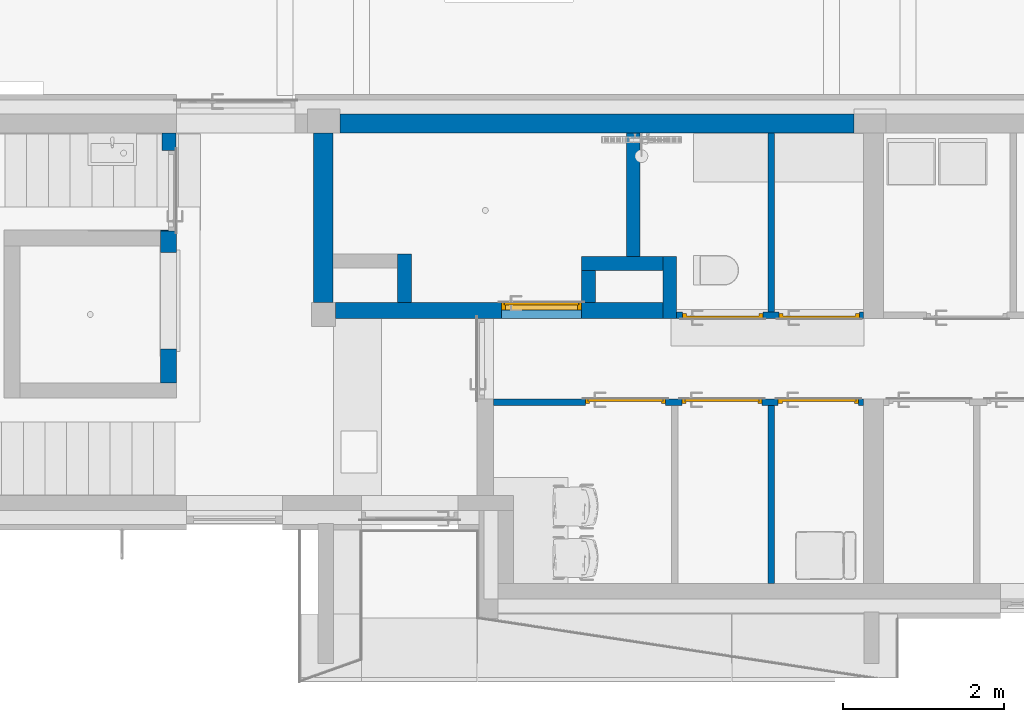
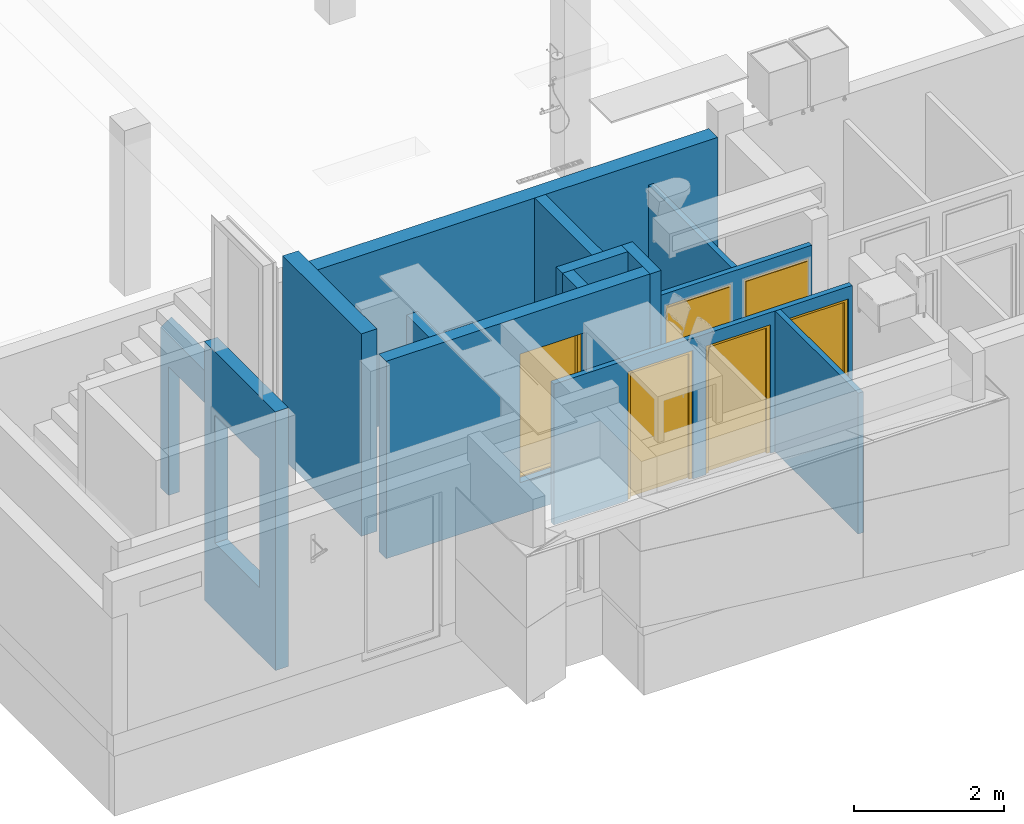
# One storey, part 2 of 55: 14 walls, 6 doors, 11 openings.
"""IFC2X3 building model written with IfcOpenShell, lengths in millimetres."""

from ifc_helpers import new_model, entity, si_unit, converted_unit, direction, frame, frame_2d, origin, place, context, subcontext, project, spatial, polyline, rectangle, extrude, clip, bounded_halfspace, faceted_brep, source, transform, mapped, material, material_list, layer, layer_set, layer_usage, type_object, type_shapes, element, fill, save


model = new_model("IFC2X3")

# Units and contexts
model_context = context("Model", 3, precision=0.01, world=origin(), true_north=direction((6.123233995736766e-17, 1.0)))
plan_context = context("Plan", 3, precision=0.01, world=origin(), true_north=direction((6.123233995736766e-17, 1.0)))
body_context = subcontext(model_context, "Body", "Model", "MODEL_VIEW")
ifc_project = project(units=[si_unit("LENGTHUNIT", "METRE", prefix="MILLI"), converted_unit("PLANEANGLEUNIT", "DEGREE", entity("IfcPlaneAngleMeasure", 0.017453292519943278), si_unit("PLANEANGLEUNIT", "RADIAN"), dimensions=[0, 0, 0, 0, 0, 0, 0]), si_unit("AREAUNIT", "SQUARE_METRE")], contexts=[model_context, plan_context])

# Site, building, storey
site_placement = place(None, origin())
site = spatial("IfcSite", under=ifc_project, at=site_placement, Name="Default", CompositionType="ELEMENT")
building_placement = place(site_placement, origin())
building = spatial("IfcBuilding", under=site, at=building_placement, CompositionType="ELEMENT")
storey_placement = place(building_placement, origin())
storey = spatial("IfcBuildingStorey", under=building, at=storey_placement, Name="1K", CompositionType="ELEMENT", Elevation=0.0)

# Walls
ifc_material_1 = material(Name="_K. Müüritis. Väikeplokk. Betoon-õõnesplokk")
ifc_layer_1 = layer(ifc_material_1, 240.0)
ifc_layer_set_1 = layer_set([ifc_layer_1], Name="Basic Wall:Columbia 240mm")
ifc_layer_usage_1 = layer_usage(ifc_layer_set_1, "AXIS2", "NEGATIVE", 120.0)
wall_type_1 = type_object("IfcWallType", Name="Basic Wall:Columbia 240mm", PredefinedType="STANDARD", material=ifc_layer_set_1)
wall_1_placement = place(storey_placement, frame((5380.001886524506, 6525.000000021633, -180.0)))
element("IfcWallStandardCase", 1, at=wall_1_placement, inside=storey, type_object=wall_type_1, material=ifc_layer_usage_1, Name="Basic Wall:Columbia 240mm", ObjectType="Basic Wall:Columbia 240mm", context=body_context, shape_type="SweptSolid", body=[
    extrude(rectangle(XDim=6395.001646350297, YDim=239.99999999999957, at=frame_2d((3197.5008231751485, 0.0), x_axis=(-1.0, 0.0))), origin(), (0.0, 0.0, 1.0), 2884.999801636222),
])
ifc_layer_usage_2 = layer_usage(ifc_layer_set_1, "AXIS2", "NEGATIVE", 120.0)
wall_2_placement = place(storey_placement, frame((5174.9950608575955, 4299.990000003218, -180.0), z_axis=(0.0, 0.0, 1.0), x_axis=(0.0, 1.0, 0.0)))
element("IfcWallStandardCase", 2, at=wall_2_placement, inside=storey, type_object=wall_type_1, material=ifc_layer_usage_2, Name="Basic Wall:Columbia 240mm", ObjectType="Basic Wall:Columbia 240mm", context=body_context, shape_type="SweptSolid", body=[
    extrude(rectangle(XDim=2105.0100000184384, YDim=239.9999999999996, at=frame_2d((1052.505000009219, 7.815970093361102e-14), x_axis=(-1.0, 0.0))), origin(), (0.0, 0.0, 1.0), 3305.0),
])

# Wall, openings
ifc_material_2 = material(Name="_K. Väisviimistlus. Krohv. Valge")
ifc_layer_2 = layer(ifc_material_2, 5.0)
ifc_layer_3 = layer(ifc_material_1, 190.00000000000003)
ifc_layer_4 = layer(ifc_material_2, 5.0)
ifc_layer_set_2 = layer_set([ifc_layer_2, ifc_layer_3, ifc_layer_4], Name="Basic Wall:SS-01. 190")
ifc_layer_usage_3 = layer_usage(ifc_layer_set_2, "AXIS2", "NEGATIVE", 100.00000000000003)
wall_type_2 = type_object("IfcWallType", Name="Basic Wall:SS-01. 190", PredefinedType="STANDARD", material=ifc_layer_set_2)
wall_3_placement = place(storey_placement, frame((3249.9935349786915, 5199.998433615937, -1100.0), z_axis=(0.0, 0.0, 1.0), x_axis=(0.0, -1.0, 0.0)))
wall_3 = element("IfcWallStandardCase", 3, at=wall_3_placement, inside=storey, type_object=wall_type_2, material=ifc_layer_usage_3, Name="Basic Wall:SS-01. 190", ObjectType="Basic Wall:SS-01. 190", context=body_context, shape_type="SweptSolid", body=[
    extrude(rectangle(XDim=1900.0045776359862, YDim=200.0, at=frame_2d((950.0022888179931, 0.0), x_axis=(-1.0, 0.0))), origin(), (0.0, 0.0, 1.0), 4225.0),
])
opening_1_placement = place(wall_3_placement, frame((5199.998433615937, -3249.9935349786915, 1100.0)))
element("IfcOpeningElement", 4, at=opening_1_placement, cuts=wall_3, Name="Basic Wall:SS-01. 190", ObjectType="Opening", context=body_context, shape_type="Brep", body=[
    faceted_brep([(-5189.998433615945, 2247.9935349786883, 2100.0), (-6189.998433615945, 2247.993534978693, 2100.0), (-6189.998433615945, 2247.993534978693, 0.0), (-5189.998433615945, 2247.9935349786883, 0.0), (-5189.998433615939, 4339.9935349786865, 0.0), (-5189.998433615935, 4339.9935349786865, 2100.0), (-6189.998433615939, 4339.993534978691, 0.0), (-6189.998433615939, 4339.993534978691, 2100.0)], [[[0, 1, 2, 3]], [[3, 4, 5, 0]], [[2, 6, 4, 3]], [[1, 7, 6, 2]], [[5, 7, 1, 0]], [[7, 5, 4, 6]]]),
])
opening_2_placement = place(wall_3_placement, frame((5199.998433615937, -3249.9935349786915, 1100.0)))
element("IfcOpeningElement", 5, at=opening_2_placement, cuts=wall_3, Name="Basic Wall:SS-01. 190", ObjectType="Opening", context=body_context, shape_type="SweptSolid", body=[
    extrude(rectangle(XDim=2100.0000000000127, YDim=1200.0, at=frame_2d((-1.1368683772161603e-13, 0.0), x_axis=(1.0, 0.0))), frame((-4320.0, 1825.9935349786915, 1050.0), z_axis=(0.0, 1.0, 0.0), x_axis=(0.0, 0.0, 1.0)), (0.0, 0.0, 1.0), 3048.0),
])
opening_3_placement = place(wall_3_placement, frame((5199.998433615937, -3249.9935349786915, 4225.0)))
element("IfcOpeningElement", 6, at=opening_3_placement, cuts=wall_3, Name="Basic Wall:SS-01. 190", ObjectType="Opening", context=body_context, shape_type="SweptSolid", body=[
    extrude(rectangle(XDim=2100.0000000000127, YDim=1200.0, at=frame_2d((-5.684341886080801e-13, 0.0), x_axis=(1.0, 0.0))), frame((-4320.0, 1825.9935349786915, 1050.0), z_axis=(0.0, 1.0, 0.0), x_axis=(0.0, 0.0, 1.0)), (0.0, 0.0, 1.0), 3048.0),
])

# Wall, openings, door
ifc_layer_usage_4 = layer_usage(ifc_layer_set_2, "AXIS2", "POSITIVE", -100.00000000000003)
wall_4_placement = place(storey_placement, frame((5325.0, 4200.0, -520.0)))
wall_4 = element("IfcWallStandardCase", 7, at=wall_4_placement, inside=storey, type_object=wall_type_2, material=ifc_layer_usage_4, Name="Basic Wall:SS-01. 190", ObjectType="Basic Wall:SS-01. 190", context=body_context, shape_type="SweptSolid", body=[
    extrude(rectangle(XDim=4074.9999999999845, YDim=199.9999999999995, at=frame_2d((2037.499999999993, 2.4868995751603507e-13), x_axis=(-1.0, 0.0))), origin(), (0.0, 0.0, 1.0), 3225.0),
])
opening_4_placement = place(wall_4_placement, frame((-5325.0, -4200.0, 520.0)))
element("IfcOpeningElement", 8, at=opening_4_placement, cuts=wall_4, Name="Basic Wall:SS-01. 190", ObjectType="Opening", context=body_context, shape_type="SweptSolid", body=[
    extrude(rectangle(XDim=2100.0, YDim=2091.9999999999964, at=frame_2d((1.1368683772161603e-13, 1.5916157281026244e-12), x_axis=(1.0, 0.0))), frame((7136.0, 3100.0, 1050.0), z_axis=(0.0, 1.0, 0.0), x_axis=(0.0, 0.0, -1.0)), (0.0, 0.0, 1.0), 1000.0000000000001),
])
opening_5_placement = place(wall_4_placement, frame((-5325.0, -4200.0, 520.0)))
opening_5 = element("IfcOpeningElement", 9, at=opening_5_placement, cuts=wall_4, Name="Basic Wall:SS-01. 190", ObjectType="Opening", context=body_context, shape_type="Brep", body=[
    faceted_brep([(8390.0, 3208.0, 2100.0), (7390.0, 3208.0, 2100.0), (7390.0, 3208.0, 0.0), (8390.0, 3208.0, 0.0), (8390.0, 5300.0, 0.0), (8390.0, 5300.0, 2100.0), (7390.0, 5300.0, 0.0), (7390.0, 5300.0, 2100.0)], [[[0, 1, 2, 3]], [[3, 4, 5, 0]], [[2, 6, 4, 3]], [[1, 7, 6, 2]], [[5, 7, 1, 0]], [[7, 5, 4, 6]]]),
])
ifc_material_3 = material(Name="<Unnamed>")
ifc_material_4 = material(Name="Default")
ifc_material_list = material_list([ifc_material_3, ifc_material_4])
door_style_1 = type_object("IfcDoorStyle", Name="HR_Generic_Hinged_Single:Default. Manteluks lävepakuga. 1000 x 2100 mm. Left", ConstructionType="NOTDEFINED", OperationType="NOTDEFINED", ParameterTakesPrecedence=False, Sizeable=False, material=ifc_material_list)
shared_shape_1 = source(origin(), body_context, "Body", "Brep", [
    faceted_brep([(965.0, -1000.0, 20.0), (35.0, -1000.0, 20.0), (35.0, -1030.0, 20.0), (50.0, -1030.0, 20.0), (50.0, -1092.0, 20.0), (950.0, -1092.0, 20.0), (950.0, -1030.0, 20.0), (965.0, -1030.0, 20.0), (35.0, -1000.0, 0.0), (965.0, -1000.0, 0.0), (965.0, -1030.0, 0.0), (950.0, -1030.0, 0.0), (950.0, -1092.0, 0.0), (50.0, -1092.0, 0.0), (50.0, -1030.0, 0.0), (35.0, -1030.0, 0.0)], [[[0, 1, 2, 3, 4, 5, 6, 7]], [[8, 9, 10, 11, 12, 13, 14, 15]], [[1, 0, 9, 8]], [[5, 4, 13, 12]], [[2, 1, 8, 15]], [[0, 7, 10, 9]], [[3, 14, 13, 4]], [[14, 3, 2, 15]], [[6, 11, 10, 7]], [[11, 6, 5, 12]]]),
    faceted_brep([(37.0, -1030.0, 2060.0), (37.0, -1030.0, 25.0), (963.0, -1030.0, 25.0), (963.0, -1030.0, 2060.0), (27.0, -990.0, 25.0), (27.0, -990.0, 2070.0), (973.0, -990.0, 2070.0), (973.0, -990.0, 25.0), (37.0, -1000.0, 2060.0), (37.0, -1000.0, 25.0), (27.0, -1000.0, 25.0), (973.0, -1000.0, 25.0), (963.0, -1000.0, 25.0), (963.0, -1000.0, 2060.0), (27.0, -1000.0, 2070.0), (973.0, -1000.0, 2070.0)], [[[0, 1, 2, 3]], [[4, 5, 6, 7]], [[1, 0, 8, 9]], [[2, 1, 9, 10, 4, 7, 11, 12]], [[3, 2, 12, 13]], [[0, 3, 13, 8]], [[14, 10, 9, 8, 13, 12, 11, 15]], [[6, 5, 14, 15]], [[7, 6, 15, 11]], [[5, 4, 10, 14]]]),
    faceted_brep([(1000.0, -1092.0, 0.0), (950.0, -1092.0, 0.0), (950.0, -1030.0, 0.0), (965.0, -1030.0, 0.0), (965.0, -1000.0, 0.0), (1000.0, -1000.0, 0.0), (1000.0, -1092.0, 2100.0), (0.0, -1092.0, 2100.0), (0.0, -1092.0, 0.0), (50.0, -1092.0, 0.0), (50.0, -1092.0, 2050.0), (950.0, -1092.0, 2050.0), (950.0, -1030.0, 2050.0), (35.0, -1030.0, 2065.0), (965.0, -1030.0, 2065.0), (50.0, -1030.0, 2050.0), (50.0, -1030.0, 0.0), (35.0, -1030.0, 0.0), (965.0, -1000.0, 2065.0), (0.0, -1000.0, 0.0), (0.0, -1000.0, 2100.0), (1000.0, -1000.0, 2100.0), (35.0, -1000.0, 2065.0), (35.0, -1000.0, 0.0)], [[[0, 1, 2, 3, 4, 5]], [[1, 0, 6, 7, 8, 9, 10, 11]], [[1, 11, 12, 2]], [[13, 14, 3, 2, 12, 15, 16, 17]], [[3, 14, 18, 4]], [[19, 20, 21, 5, 4, 18, 22, 23]], [[0, 5, 21, 6]], [[8, 19, 23, 17, 16, 9]], [[19, 8, 7, 20]], [[13, 17, 23, 22]], [[10, 9, 16, 15]], [[7, 6, 21, 20]], [[11, 10, 15, 12]], [[14, 13, 22, 18]]]),
])
type_shapes(door_style_1, [shared_shape_1])
door_1_placement = place(opening_5_placement, frame((7390.0, 5300.0, 0.0)))
door_1 = element("IfcDoor", 10, at=door_1_placement, inside=storey, type_object=door_style_1, material=ifc_material_list, Name="HR_Generic_Hinged_Single:Default. Manteluks lävepakuga. 1000 x 2100 mm. Left", ObjectType="HR_Generic_Hinged_Single:Default. Manteluks lävepakuga. 1000 x 2100 mm. Left", OverallHeight=2130.000000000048, OverallWidth=1060.0000000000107, context=body_context, shape_type="MappedRepresentation", body=[
    mapped(shared_shape_1, transform((0.0, 0.0, 0.0), scale=1.0)),
])
fill(opening_5, door_1)

# Walls
ifc_layer_5 = layer(ifc_material_2, 10.0)
ifc_material_5 = material(Name="_K. Müüritis. Väikeplokk. Kergkruusplokk")
ifc_layer_6 = layer(ifc_material_5, 150.0)
ifc_layer_7 = layer(ifc_material_2, 10.0)
ifc_layer_set_3 = layer_set([ifc_layer_5, ifc_layer_6, ifc_layer_7], Name="Basic Wall:SS-03. Šahti sein")
ifc_layer_usage_5 = layer_usage(ifc_layer_set_3, "AXIS2", "NEGATIVE", 85.00000000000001)
wall_type_3 = type_object("IfcWallType", Name="Basic Wall:SS-03. Šahti sein", PredefinedType="STANDARD", material=ifc_layer_set_3)
wall_5_placement = place(storey_placement, frame((8390.0, 4785.0, -20.0)))
element("IfcWallStandardCase", 11, at=wall_5_placement, inside=storey, type_object=wall_type_3, material=ifc_layer_usage_5, Name="Basic Wall:SS-03. Šahti sein", ObjectType="Basic Wall:SS-03. Šahti sein", context=body_context, shape_type="SweptSolid", body=[
    extrude(rectangle(XDim=1009.9999999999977, YDim=170.00000000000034, at=frame_2d((504.99999999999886, 0.0), x_axis=(-1.0, 0.0))), origin(), (0.0, 0.0, 1.0), 2724.9998016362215),
])
ifc_layer_usage_6 = layer_usage(ifc_layer_set_3, "AXIS2", "NEGATIVE", 85.00000000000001)
wall_6_placement = place(storey_placement, frame((9485.0, 4870.0, -20.0), z_axis=(0.0, 0.0, 1.0), x_axis=(0.0, -1.0, 0.0)))
element("IfcWallStandardCase", 12, at=wall_6_placement, inside=storey, type_object=wall_type_3, material=ifc_layer_usage_6, Name="Basic Wall:SS-03. Šahti sein", ObjectType="Basic Wall:SS-03. Šahti sein", context=body_context, shape_type="SweptSolid", body=[
    extrude(rectangle(XDim=770.0000000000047, YDim=170.00000000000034, at=frame_2d((385.00000000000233, -2.1316282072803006e-14), x_axis=(-1.0, 0.0))), origin(), (0.0, 0.0, 1.0), 2724.9998016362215),
])
ifc_layer_usage_7 = layer_usage(ifc_layer_set_3, "AXIS2", "POSITIVE", -85.00000000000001)
wall_7_placement = place(storey_placement, frame((8475.0, 4700.0, -20.0), z_axis=(0.0, 0.0, 1.0), x_axis=(0.0, -1.0, 0.0)))
element("IfcWallStandardCase", 13, at=wall_7_placement, inside=storey, type_object=wall_type_3, material=ifc_layer_usage_7, Name="Basic Wall:SS-03. Šahti sein", ObjectType="Basic Wall:SS-03. Šahti sein", context=body_context, shape_type="SweptSolid", body=[
    extrude(rectangle(XDim=400.00000000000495, YDim=170.00000000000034, at=frame_2d((200.00000000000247, -1.3500311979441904e-13), x_axis=(-1.0, 0.0))), origin(), (0.0, 0.0, 1.0), 2725.0),
])
ifc_layer_usage_8 = layer_usage(ifc_layer_set_3, "AXIS2", "NEGATIVE", 85.00000000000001)
wall_8_placement = place(storey_placement, frame((6184.997197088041, 4900.0, -20.0), z_axis=(0.0, 0.0, 1.0), x_axis=(0.0, -1.0, 0.0)))
element("IfcWallStandardCase", 14, at=wall_8_placement, inside=storey, type_object=wall_type_3, material=ifc_layer_usage_8, Name="Basic Wall:SS-03. Šahti sein", ObjectType="Basic Wall:SS-03. Šahti sein", context=body_context, shape_type="SweptSolid", body=[
    extrude(rectangle(XDim=599.9999999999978, YDim=170.00000000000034, at=frame_2d((299.9999999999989, 4.050093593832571e-13), x_axis=(-1.0, 0.0))), origin(), (0.0, 0.0, 1.0), 2724.9998016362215),
])
ifc_layer_usage_9 = layer_usage(ifc_layer_set_3, "AXIS2", "NEGATIVE", 85.00000000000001)
wall_9_placement = place(storey_placement, frame((9029.995060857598, 6405.000000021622, -20.0), z_axis=(0.0, 0.0, 1.0), x_axis=(0.0, -1.0, 0.0)))
element("IfcWallStandardCase", 15, at=wall_9_placement, inside=storey, type_object=wall_type_3, material=ifc_layer_usage_9, Name="Basic Wall:SS-03. Šahti sein", ObjectType="Basic Wall:SS-03. Šahti sein", context=body_context, shape_type="SweptSolid", body=[
    extrude(rectangle(XDim=1535.0000000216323, YDim=170.00000000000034, at=frame_2d((767.5000000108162, -4.263256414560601e-14), x_axis=(-1.0, 0.0))), origin(), (0.0, 0.0, 1.0), 2725.0),
])

# Wall, opening
ifc_layer_usage_10 = layer_usage(ifc_layer_set_3, "AXIS2", "NEGATIVE", 85.00000000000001)
wall_10_placement = place(storey_placement, frame((3254.9935349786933, 6405.000000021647, 0.0), z_axis=(0.0, 0.0, 1.0), x_axis=(0.0, -1.0, 0.0)))
wall_10 = element("IfcWallStandardCase", 16, at=wall_10_placement, inside=storey, type_object=wall_type_3, material=ifc_layer_usage_10, Name="Basic Wall:SS-03. Šahti sein", ObjectType="Basic Wall:SS-03. Šahti sein", context=body_context, shape_type="Clipping", body=[
    clip(extrude(rectangle(XDim=1205.0015664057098, YDim=170.00000000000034, at=frame_2d((602.5007832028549, 0.0), x_axis=(-1.0, 0.0))), origin(), (0.0, 0.0, 1.0), 2731.848554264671), bounded_halfspace(frame((0.0, -85.0, 2622.537854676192), z_axis=(0.0, -0.5408450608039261, 0.8411222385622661), x_axis=(0.0, -0.8411222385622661, -0.5408450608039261)), False, frame((0.0, -85.0, 2622.537854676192)), polyline([(0.0, 0.0), (1205.0015664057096, 0.0), (1205.0015664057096, 170.0), (0.0, 170.0), (0.0, 0.0)]))),
])
opening_6_placement = place(wall_10_placement, frame((6405.000000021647, -3254.9935349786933, 0.0), z_axis=(0.0, 0.0, 1.0), x_axis=(0.0, 1.0, 0.0)))
element("IfcOpeningElement", 17, at=opening_6_placement, cuts=wall_10, Name="Basic Wall:SS-03. Šahti sein", ObjectType="Opening", context=body_context, shape_type="Brep", body=[
    faceted_brep([(2247.9935349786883, 5189.998433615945, 2100.0), (2247.993534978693, 6189.998433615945, 2100.0), (2247.993534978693, 6189.998433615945, 0.0), (2247.9935349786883, 5189.998433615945, 0.0), (4339.9935349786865, 5189.998433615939, 0.0), (4339.9935349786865, 5189.998433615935, 2100.0), (4339.993534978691, 6189.998433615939, 0.0), (4339.993534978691, 6189.998433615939, 2100.0)], [[[0, 1, 2, 3]], [[3, 4, 5, 0]], [[2, 6, 4, 3]], [[1, 7, 6, 2]], [[5, 7, 1, 0]], [[7, 5, 4, 6]]]),
])

# Wall, openings, doors
ifc_material_6 = material(Name="_K. Ehitusplaat. Vineer")
ifc_layer_8 = layer(ifc_material_6, 12.0)
ifc_material_7 = material(Name="_K. Puit. Peitsitud ja lakitud")
ifc_layer_9 = layer(ifc_material_7, 70.0)
ifc_layer_set_4 = layer_set([ifc_layer_8, ifc_layer_9], Name="Basic Wall:SS-07. Panipaik")
ifc_layer_usage_11 = layer_usage(ifc_layer_set_4, "AXIS2", "NEGATIVE", 41.0)
wall_type_4 = type_object("IfcWallType", Name="Basic Wall:SS-07. Panipaik", PredefinedType="STANDARD", material=ifc_layer_set_4)
wall_11_placement = place(storey_placement, frame((11894.995060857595, 3058.999959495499, 0.0), z_axis=(0.0, 0.0, 1.0), x_axis=(-1.0, 0.0, 0.0)))
wall_11 = element("IfcWallStandardCase", 18, at=wall_11_placement, inside=storey, type_object=wall_type_4, material=ifc_layer_usage_11, Name="Basic Wall:SS-07. Panipaik", ObjectType="Basic Wall:SS-07. Panipaik", context=body_context, shape_type="SweptSolid", body=[
    extrude(rectangle(XDim=4604.9950608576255, YDim=81.99999999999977, at=frame_2d((2302.4975304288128, 7.460698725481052e-14), x_axis=(-1.0, 0.0))), origin(), (0.0, 0.0, 1.0), 2300.0000000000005),
])
opening_7_placement = place(wall_11_placement, frame((11894.995060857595, 3058.999959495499, 0.0), z_axis=(0.0, 0.0, 1.0), x_axis=(-1.0, 0.0, 0.0)))
opening_7 = element("IfcOpeningElement", 19, at=opening_7_placement, cuts=wall_11, Name="Basic Wall:SS-07. Panipaik", ObjectType="Opening", context=body_context, shape_type="Brep", body=[
    faceted_brep([(11834.995060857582, 2039.9999594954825, 2100.0), (10834.995060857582, 2039.999959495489, 2100.0), (10834.995060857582, 2039.999959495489, 0.0), (11834.995060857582, 2039.9999594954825, 0.0), (11834.995060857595, 4099.999959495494, 0.0), (11834.995060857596, 4099.999959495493, 2100.0), (10834.995060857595, 4099.999959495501, 0.0), (10834.995060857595, 4099.999959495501, 2100.0)], [[[0, 1, 2, 3]], [[3, 4, 5, 0]], [[2, 6, 4, 3]], [[1, 7, 6, 2]], [[5, 7, 1, 0]], [[7, 5, 4, 6]]]),
])
opening_8_placement = place(wall_11_placement, frame((11894.995060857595, 3058.999959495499, 0.0), z_axis=(0.0, 0.0, 1.0), x_axis=(-1.0, 0.0, 0.0)))
opening_8 = element("IfcOpeningElement", 20, at=opening_8_placement, cuts=wall_11, Name="Basic Wall:SS-07. Panipaik", ObjectType="Opening", context=body_context, shape_type="Brep", body=[
    faceted_brep([(10634.995060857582, 2039.9999594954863, 2100.0), (9634.995060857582, 2039.9999594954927, 2100.0), (9634.995060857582, 2039.9999594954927, 0.0), (10634.995060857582, 2039.9999594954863, 0.0), (10634.995060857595, 4099.999959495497, 0.0), (10634.995060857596, 4099.999959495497, 2100.0), (9634.995060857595, 4099.999959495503, 0.0), (9634.995060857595, 4099.999959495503, 2100.0)], [[[0, 1, 2, 3]], [[3, 4, 5, 0]], [[2, 6, 4, 3]], [[1, 7, 6, 2]], [[5, 7, 1, 0]], [[7, 5, 4, 6]]]),
])
opening_9_placement = place(wall_11_placement, frame((11894.995060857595, 3058.999959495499, 0.0), z_axis=(0.0, 0.0, 1.0), x_axis=(-1.0, 0.0, 0.0)))
opening_9 = element("IfcOpeningElement", 21, at=opening_9_placement, cuts=wall_11, Name="Basic Wall:SS-07. Panipaik", ObjectType="Opening", context=body_context, shape_type="Brep", body=[
    faceted_brep([(9434.99506085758, 2039.9999594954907, 2100.0), (8434.99506085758, 2039.999959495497, 2100.0), (8434.99506085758, 2039.999959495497, 0.0), (9434.99506085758, 2039.9999594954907, 0.0), (9434.995060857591, 4099.999959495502, 0.0), (9434.995060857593, 4099.999959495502, 2100.0), (8434.995060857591, 4099.999959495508, 0.0), (8434.995060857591, 4099.999959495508, 2100.0)], [[[0, 1, 2, 3]], [[3, 4, 5, 0]], [[2, 6, 4, 3]], [[1, 7, 6, 2]], [[5, 7, 1, 0]], [[7, 5, 4, 6]]]),
])
ifc_material_8 = material(Name="_K. Metall. Plekk. Tsingitud")
door_style_2 = type_object("IfcDoorStyle", Name="HR_Generic_Hinged_Single:Panipaik. Vasak", ConstructionType="NOTDEFINED", OperationType="NOTDEFINED", ParameterTakesPrecedence=False, Sizeable=False, material=ifc_material_8)
shared_shape_2 = source(origin(), body_context, "Body", "Brep", [
    faceted_brep([(37.0, -1030.0, 2060.0), (37.0, -1030.0, 10.0), (963.0, -1030.0, 10.0), (963.0, -1030.0, 2060.0), (27.0, -990.0, 10.0), (27.0, -990.0, 2070.0), (973.0, -990.0, 2070.0), (973.0, -990.0, 10.0), (37.0, -1000.0, 2060.0), (37.0, -1000.0, 10.0), (27.0, -1000.0, 10.0), (973.0, -1000.0, 10.0), (963.0, -1000.0, 10.0), (963.0, -1000.0, 2060.0), (27.0, -1000.0, 2070.0), (973.0, -1000.0, 2070.0)], [[[0, 1, 2, 3]], [[4, 5, 6, 7]], [[1, 0, 8, 9]], [[2, 1, 9, 10, 4, 7, 11, 12]], [[3, 2, 12, 13]], [[0, 3, 13, 8]], [[14, 10, 9, 8, 13, 12, 11, 15]], [[6, 5, 14, 15]], [[7, 6, 15, 11]], [[5, 4, 10, 14]]]),
    faceted_brep([(1000.0, -1060.0, 0.0), (950.0, -1060.0, 0.0), (950.0, -1030.0, 0.0), (965.0, -1030.0, 0.0), (965.0, -1000.0, 0.0), (1000.0, -1000.0, 0.0), (1000.0, -1060.0, 2100.0), (0.0, -1060.0, 2100.0), (0.0, -1060.0, 0.0), (50.0, -1060.0, 0.0), (50.0, -1060.0, 2050.0), (950.0, -1060.0, 2050.0), (950.0, -1030.0, 2050.0), (35.0, -1030.0, 2065.0), (965.0, -1030.0, 2065.0), (50.0, -1030.0, 2050.0), (50.0, -1030.0, 0.0), (35.0, -1030.0, 0.0), (965.0, -1000.0, 2065.0), (0.0, -1000.0, 0.0), (0.0, -1000.0, 2100.0), (1000.0, -1000.0, 2100.0), (35.0, -1000.0, 2065.0), (35.0, -1000.0, 0.0)], [[[0, 1, 2, 3, 4, 5]], [[1, 0, 6, 7, 8, 9, 10, 11]], [[1, 11, 12, 2]], [[13, 14, 3, 2, 12, 15, 16, 17]], [[3, 14, 18, 4]], [[19, 20, 21, 5, 4, 18, 22, 23]], [[0, 5, 21, 6]], [[8, 19, 23, 17, 16, 9]], [[19, 8, 7, 20]], [[13, 17, 23, 22]], [[10, 9, 16, 15]], [[7, 6, 21, 20]], [[11, 10, 15, 12]], [[14, 13, 22, 18]]]),
])
type_shapes(door_style_2, [shared_shape_2])
door_2_placement = place(opening_7_placement, frame((10834.995060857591, 4099.999959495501, 0.0)))
door_2 = element("IfcDoor", 22, at=door_2_placement, inside=storey, type_object=door_style_2, material=ifc_material_8, Name="HR_Generic_Hinged_Single:Panipaik. Vasak", ObjectType="HR_Generic_Hinged_Single:Panipaik. Vasak", OverallHeight=2130.000000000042, OverallWidth=1060.0000000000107, context=body_context, shape_type="MappedRepresentation", body=[
    mapped(shared_shape_2, transform((0.0, 0.0, 0.0), scale=1.0)),
])
fill(opening_7, door_2)
door_3_placement = place(opening_8_placement, frame((9634.99506085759, 4099.999959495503, 0.0)))
door_3 = element("IfcDoor", 23, at=door_3_placement, inside=storey, type_object=door_style_2, material=ifc_material_8, Name="HR_Generic_Hinged_Single:Panipaik. Vasak", ObjectType="HR_Generic_Hinged_Single:Panipaik. Vasak", OverallHeight=2130.000000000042, OverallWidth=1060.0000000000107, context=body_context, shape_type="MappedRepresentation", body=[
    mapped(shared_shape_2, transform((0.0, 0.0, 0.0), scale=1.0)),
])
fill(opening_8, door_3)
door_4_placement = place(opening_9_placement, frame((8434.995060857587, 4099.999959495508, 0.0)))
door_4 = element("IfcDoor", 24, at=door_4_placement, inside=storey, type_object=door_style_2, material=ifc_material_8, Name="HR_Generic_Hinged_Single:Panipaik. Vasak", ObjectType="HR_Generic_Hinged_Single:Panipaik. Vasak", OverallHeight=2130.000000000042, OverallWidth=1060.0000000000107, context=body_context, shape_type="MappedRepresentation", body=[
    mapped(shared_shape_2, transform((0.0, 0.0, 0.0), scale=1.0)),
])
fill(opening_9, door_4)

# Wall
ifc_layer_usage_12 = layer_usage(ifc_layer_set_4, "AXIS2", "POSITIVE", -41.0)
wall_12_placement = place(storey_placement, frame((10745.995060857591, 799.9999945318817, 0.0), z_axis=(0.0, 0.0, 1.0), x_axis=(0.0, 1.0, 0.0)))
element("IfcWallStandardCase", 25, at=wall_12_placement, inside=storey, type_object=wall_type_4, material=ifc_layer_usage_12, Name="Basic Wall:SS-07. Panipaik", ObjectType="Basic Wall:SS-07. Panipaik", context=body_context, shape_type="SweptSolid", body=[
    extrude(rectangle(XDim=2217.999964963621, YDim=81.99999999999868, at=frame_2d((1108.9999824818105, 1.9895196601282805e-13), x_axis=(-1.0, 0.0))), origin(), (0.0, 0.0, 1.0), 2300.0),
])

# Wall, openings, doors
ifc_layer_usage_13 = layer_usage(ifc_layer_set_4, "AXIS2", "POSITIVE", -41.0)
wall_13_placement = place(storey_placement, frame((11894.995060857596, 4140.999959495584, 0.0), z_axis=(0.0, 0.0, 1.0), x_axis=(-1.0, 0.0, 0.0)))
wall_13 = element("IfcWallStandardCase", 26, at=wall_13_placement, inside=storey, type_object=wall_type_4, material=ifc_layer_usage_13, Name="Basic Wall:SS-07. Panipaik", ObjectType="Basic Wall:SS-07. Panipaik", context=body_context, shape_type="SweptSolid", body=[
    extrude(rectangle(XDim=2324.9950608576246, YDim=81.99999999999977, at=frame_2d((1162.4975304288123, -3.197442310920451e-14), x_axis=(-1.0, 0.0))), origin(), (0.0, 0.0, 1.0), 2300.0),
])
opening_10_placement = place(wall_13_placement, frame((11894.995060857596, 4140.999959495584, 0.0), z_axis=(0.0, 0.0, 1.0), x_axis=(-1.0, 0.0, 0.0)))
opening_10 = element("IfcOpeningElement", 27, at=opening_10_placement, cuts=wall_13, Name="Basic Wall:SS-07. Panipaik", ObjectType="Opening", context=body_context, shape_type="Brep", body=[
    faceted_brep([(10844.9950608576, 5159.999959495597, 2100.0), (11844.995060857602, 5159.999959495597, 2100.0), (11844.995060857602, 5159.999959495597, 0.0), (10844.9950608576, 5159.999959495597, 0.0), (10844.995060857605, 3099.9999594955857, 0.0), (10844.9950608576, 3099.9999594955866, 2100.0), (11844.995060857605, 3099.9999594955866, 0.0), (11844.995060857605, 3099.9999594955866, 2100.0)], [[[0, 1, 2, 3]], [[3, 4, 5, 0]], [[2, 6, 4, 3]], [[1, 7, 6, 2]], [[5, 7, 1, 0]], [[7, 5, 4, 6]]]),
])
opening_11_placement = place(wall_13_placement, frame((11894.995060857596, 4140.999959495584, 0.0), z_axis=(0.0, 0.0, 1.0), x_axis=(-1.0, 0.0, 0.0)))
opening_11 = element("IfcOpeningElement", 28, at=opening_11_placement, cuts=wall_13, Name="Basic Wall:SS-07. Panipaik", ObjectType="Opening", context=body_context, shape_type="Brep", body=[
    faceted_brep([(9644.995060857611, 5159.9999594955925, 2100.0), (10644.995060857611, 5159.9999594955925, 2100.0), (10644.995060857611, 5159.9999594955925, 0.0), (9644.995060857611, 5159.9999594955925, 0.0), (9644.995060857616, 3099.9999594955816, 0.0), (9644.995060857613, 3099.999959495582, 2100.0), (10644.995060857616, 3099.999959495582, 0.0), (10644.995060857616, 3099.999959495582, 2100.0)], [[[0, 1, 2, 3]], [[3, 4, 5, 0]], [[2, 6, 4, 3]], [[1, 7, 6, 2]], [[5, 7, 1, 0]], [[7, 5, 4, 6]]]),
])
door_style_3 = type_object("IfcDoorStyle", Name="HR_Generic_Hinged_Single:Panipaik. Parem", ConstructionType="NOTDEFINED", OperationType="NOTDEFINED", ParameterTakesPrecedence=False, Sizeable=False, material=ifc_material_8)
shared_shape_3 = source(origin(), body_context, "Body", "Brep", [
    faceted_brep([(37.0, 1030.0, 2060.0), (37.0, 1030.0, 10.0), (963.0, 1030.0, 10.0), (963.0, 1030.0, 2060.0), (27.0, 1070.0, 10.0), (27.0, 1070.0, 2070.0), (973.0, 1070.0, 2070.0), (973.0, 1070.0, 10.0), (37.0, 1060.0, 2060.0), (37.0, 1060.0, 10.0), (27.0, 1060.0, 10.0), (973.0, 1060.0, 10.0), (963.0, 1060.0, 10.0), (963.0, 1060.0, 2060.0), (27.0, 1060.0, 2070.0), (973.0, 1060.0, 2070.0)], [[[0, 1, 2, 3]], [[4, 5, 6, 7]], [[1, 0, 8, 9]], [[2, 1, 9, 10, 4, 7, 11, 12]], [[3, 2, 12, 13]], [[0, 3, 13, 8]], [[14, 10, 9, 8, 13, 12, 11, 15]], [[6, 5, 14, 15]], [[7, 6, 15, 11]], [[5, 4, 10, 14]]]),
    faceted_brep([(1000.0, 1000.0, 0.0), (950.0, 1000.0, 0.0), (950.0, 1030.0, 0.0), (965.0, 1030.0, 0.0), (965.0, 1060.0, 0.0), (1000.0, 1060.0, 0.0), (1000.0, 1000.0, 2100.0), (0.0, 1000.0, 2100.0), (0.0, 1000.0, 0.0), (50.0, 1000.0, 0.0), (50.0, 1000.0, 2050.0), (950.0, 1000.0, 2050.0), (950.0, 1030.0, 2050.0), (35.0, 1030.0, 2065.0), (965.0, 1030.0, 2065.0), (50.0, 1030.0, 2050.0), (50.0, 1030.0, 0.0), (35.0, 1030.0, 0.0), (965.0, 1060.0, 2065.0), (0.0, 1060.0, 0.0), (0.0, 1060.0, 2100.0), (1000.0, 1060.0, 2100.0), (35.0, 1060.0, 2065.0), (35.0, 1060.0, 0.0)], [[[0, 1, 2, 3, 4, 5]], [[1, 0, 6, 7, 8, 9, 10, 11]], [[1, 11, 12, 2]], [[13, 14, 3, 2, 12, 15, 16, 17]], [[3, 14, 18, 4]], [[19, 20, 21, 5, 4, 18, 22, 23]], [[0, 5, 21, 6]], [[8, 19, 23, 17, 16, 9]], [[19, 8, 7, 20]], [[13, 17, 23, 22]], [[10, 9, 16, 15]], [[7, 6, 21, 20]], [[11, 10, 15, 12]], [[14, 13, 22, 18]]]),
])
type_shapes(door_style_3, [shared_shape_3])
door_5_placement = place(opening_10_placement, frame((11844.995060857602, 5159.999959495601, 0.0), z_axis=(0.0, 0.0, 1.0), x_axis=(-1.0, 0.0, 0.0)))
door_5 = element("IfcDoor", 29, at=door_5_placement, inside=storey, type_object=door_style_3, material=ifc_material_8, Name="HR_Generic_Hinged_Single:Panipaik. Parem", ObjectType="HR_Generic_Hinged_Single:Panipaik. Parem", OverallHeight=2130.000000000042, OverallWidth=1060.0000000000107, context=body_context, shape_type="MappedRepresentation", body=[
    mapped(shared_shape_3, transform((0.0, 0.0, 0.0), scale=1.0)),
])
fill(opening_10, door_5)
door_6_placement = place(opening_11_placement, frame((10644.995060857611, 5159.999959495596, 0.0), z_axis=(0.0, 0.0, 1.0), x_axis=(-1.0, 0.0, 0.0)))
door_6 = element("IfcDoor", 30, at=door_6_placement, inside=storey, type_object=door_style_3, material=ifc_material_8, Name="HR_Generic_Hinged_Single:Panipaik. Parem", ObjectType="HR_Generic_Hinged_Single:Panipaik. Parem", OverallHeight=2130.000000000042, OverallWidth=1060.0000000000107, context=body_context, shape_type="MappedRepresentation", body=[
    mapped(shared_shape_3, transform((0.0, 0.0, 0.0), scale=1.0)),
])
fill(opening_11, door_6)

# Wall
ifc_layer_usage_14 = layer_usage(ifc_layer_set_4, "AXIS2", "NEGATIVE", 41.0)
wall_14_placement = place(storey_placement, frame((10745.995060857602, 6405.000000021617, -20.0), z_axis=(0.0, 0.0, 1.0), x_axis=(0.0, -1.0, 0.0)))
element("IfcWallStandardCase", 31, at=wall_14_placement, inside=storey, type_object=wall_type_4, material=ifc_layer_usage_14, Name="Basic Wall:SS-07. Panipaik", ObjectType="Basic Wall:SS-07. Panipaik", context=body_context, shape_type="SweptSolid", body=[
    extrude(rectangle(XDim=2223.000040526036, YDim=81.99999999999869, at=frame_2d((1111.500020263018, 2.7711166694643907e-13), x_axis=(-1.0, 0.0))), origin(), (0.0, 0.0, 1.0), 2320.0),
])

save(model, "model.ifc")
